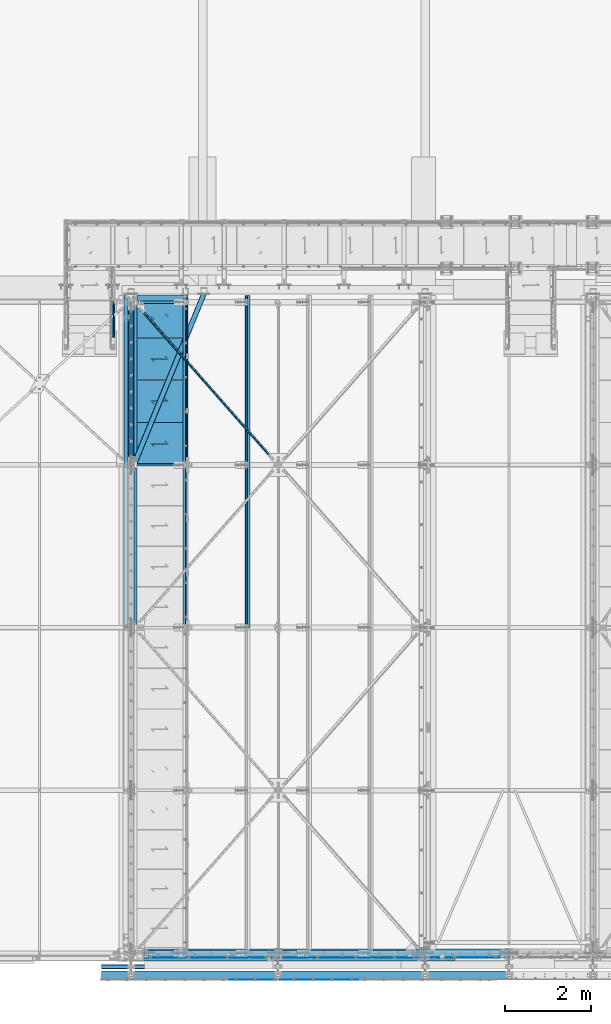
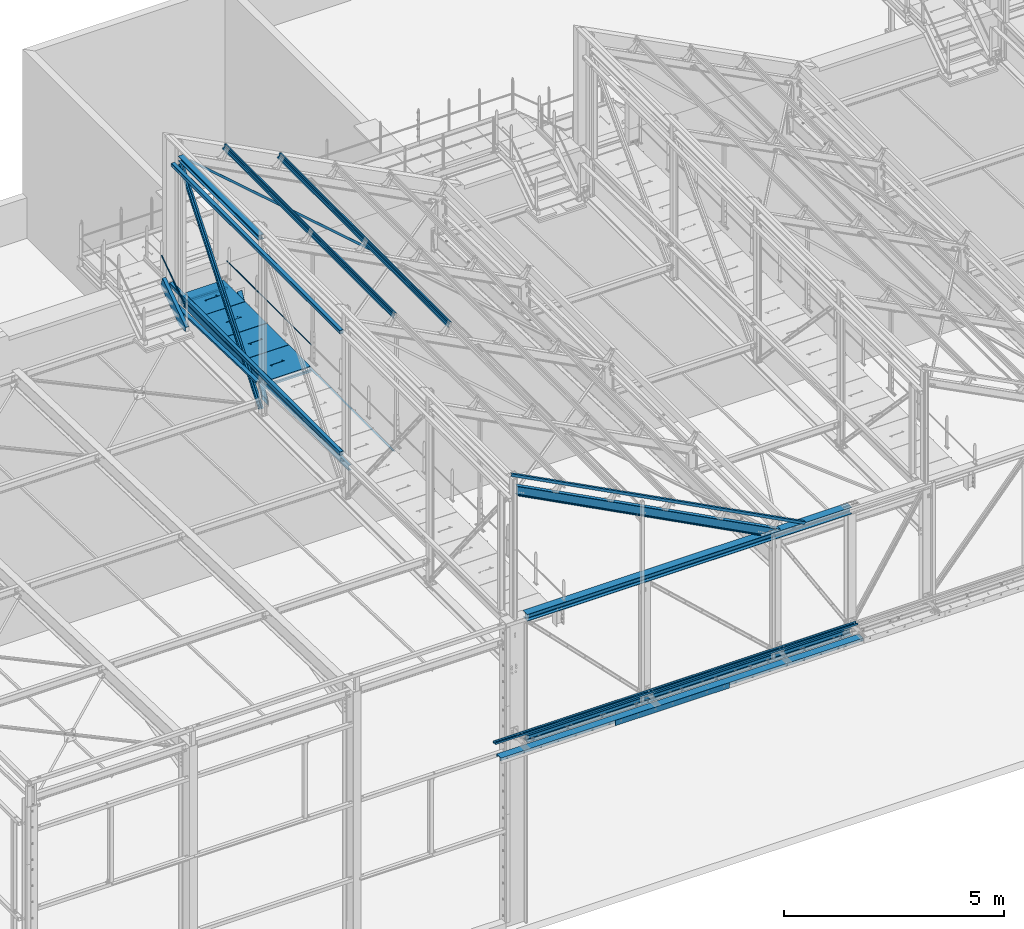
# One storey, part 46 of 362: 24 beams, 6 members, 30 elements without a shape of their own.
"""IFC2X3 building model written with IfcOpenShell, lengths in millimetres."""

from ifc_helpers import new_model, si_unit, frame, origin_with_axes, origin_2d_with_axis, place, context, subcontext, project, spatial, polyline, rectangle, hollow_rectangle, hollow_circle, i_section, l_section, u_section, outline, extrude, boolean, clip, halfspace, material, type_object, element, aggregate, save


model = new_model("IFC2X3")

# Units and contexts
model_context = context("Model", 3, precision=1e-05, world=origin_with_axes())
body_context = subcontext(model_context, "Body", "Model", "MODEL_VIEW")
ifc_project = project(units=[si_unit("LENGTHUNIT", "METRE", prefix="MILLI"), si_unit("AREAUNIT", "SQUARE_METRE"), si_unit("VOLUMEUNIT", "CUBIC_METRE"), si_unit("MASSUNIT", "GRAM", prefix="KILO"), si_unit("TIMEUNIT", "SECOND"), si_unit("PLANEANGLEUNIT", "RADIAN"), si_unit("SOLIDANGLEUNIT", "STERADIAN"), si_unit("THERMODYNAMICTEMPERATUREUNIT", "DEGREE_CELSIUS"), si_unit("LUMINOUSINTENSITYUNIT", "LUMEN")], contexts=[model_context])

# Site, building, storey
site_placement = place(None, origin_with_axes())
site = spatial("IfcSite", under=ifc_project, at=site_placement, Name="Undefined", CompositionType="ELEMENT")
building_placement = place(site_placement, origin_with_axes())
building = spatial("IfcBuilding", under=site, at=building_placement, Name="Undefined", CompositionType="ELEMENT")
storey_placement = place(building_placement, origin_with_axes())
storey = spatial("IfcBuildingStorey", under=building, at=storey_placement, Name="Undefined", CompositionType="ELEMENT", Elevation=0.0)

# Assembly, member
assembly_1_placement = place(storey_placement, origin_with_axes())
assembly_1 = element("IfcElementAssembly", 1, at=assembly_1_placement, inside=storey, Name="MAIN COURANTE", AssemblyPlace="NOTDEFINED", PredefinedType="NOTDEFINED")
ifc_material_1 = material(Name="Undefined/S235-E24")
member_type_1 = type_object("IfcMemberType", Name="TUBE-21.3*2", PredefinedType="NOTDEFINED")
member_1_placement = place(assembly_1_placement, frame((12269.9936634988, 14144.9998536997, 8651.13839395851), z_axis=(0.999999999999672, -6.66011674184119e-07, -4.61008081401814e-07), x_axis=(0.0, 0.822192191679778, 0.56920997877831)))
member_1 = element("IfcMember", 2, at=member_1_placement, type_object=member_type_1, material=ifc_material_1, Name="LISSE", ObjectType="TUBE-21.3*2", context=body_context, shape_type="Clipping", body=[
    clip(clip(extrude(hollow_circle(Radius=10.64999962, WallThickness=2.0, at=origin_2d_with_axis()), frame((1395.35433691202, -1.13686837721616e-12, 7.38694435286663e-20), z_axis=(-1.0, 0.0, 0.0), x_axis=(0.0, -1.0, 0.0)), (0.0, 0.0, 1.0), 1404.17), halfspace(frame((1387.78549896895, 10.5802584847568, -0.00112410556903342), z_axis=(-0.822192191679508, 0.569209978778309, 6.66011673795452e-07), x_axis=(-0.569209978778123, -0.822192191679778, 4.61008086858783e-07)), True)), halfspace(frame((16.4615054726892, 14.9935154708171, -1.33328576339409e-05), z_axis=(0.822192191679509, -0.569209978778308, -6.66011673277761e-07), x_axis=(0.0, 0.0, -1.0)), True)),
])
aggregate(assembly_1, [member_1])

# Assembly, beam
assembly_2_placement = place(storey_placement, origin_with_axes())
assembly_2 = element("IfcElementAssembly", 3, at=assembly_2_placement, inside=storey, Name="SUPPORT", AssemblyPlace="NOTDEFINED", PredefinedType="NOTDEFINED")
beam_type_1 = type_object("IfcBeamType", Name="L50*5", PredefinedType="NOTDEFINED")
beam_1_placement = place(assembly_2_placement, frame((13921.4998855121, 15280.0000894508, 8074.99999999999), z_axis=(-1.0, 0.0, 0.0), x_axis=(0.0, -1.0, 0.0)))
beam_1 = element("IfcBeam", 4, at=beam_1_placement, type_object=beam_type_1, material=ifc_material_1, Name="SUPPORT", ObjectType="L50*5", context=body_context, shape_type="SweptSolid", body=[
    extrude(l_section(Depth=50.0, Width=50.0, Thickness=5.0, FilletRadius=7.0, EdgeRadius=3.5, at=origin_2d_with_axis()), frame((7675.0000889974, 0.0, 0.0), z_axis=(-1.0, 0.0, 0.0), x_axis=(0.0, -1.0, 0.0)), (0.0, 0.0, 1.0), 7675.0),
])
aggregate(assembly_2, [beam_1])

# Assembly, member
assembly_3_placement = place(storey_placement, origin_with_axes())
assembly_3 = element("IfcElementAssembly", 5, at=assembly_3_placement, inside=storey, AssemblyPlace="NOTDEFINED", PredefinedType="NOTDEFINED")
ifc_material_2 = material(Name="Undefined/S275-E28")
member_type_2 = type_object("IfcMemberType", Name="UPN260", PredefinedType="NOTDEFINED")
member_2_placement = place(assembly_3_placement, frame((12254.9957050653, 15220.1081967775, 8803.11488296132), z_axis=(-2.38199999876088e-06, 0.569209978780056, -0.822192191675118), x_axis=(-1.71699999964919e-06, -0.822192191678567, -0.569209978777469)))
member_2 = element("IfcMember", 6, at=member_2_placement, type_object=member_type_2, material=ifc_material_2, Name="LIMON", ObjectType="UPN260", context=body_context, shape_type="Clipping", body=[
    clip(clip(clip(extrude(u_section(Depth=260.0, FlangeWidth=90.0, WebThickness=10.0, FlangeThickness=14.0, FilletRadius=14.0, EdgeRadius=7.0, FlangeSlope=0.0798299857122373, at=origin_2d_with_axis()), frame((1532.05974941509, 3.24426271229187e-19, 1.50656932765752e-12), z_axis=(-1.0, 0.0, 0.0), x_axis=(0.0, -1.0, 0.0)), (0.0, 0.0, 1.0), 1652.65), halfspace(frame((1475.10561376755, -44.9999999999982, -130.0), z_axis=(0.594754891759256, -2.93590080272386e-06, 0.803907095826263), x_axis=(-0.803907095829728, -3.97667463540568e-10, 0.594754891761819)), False)), halfspace(frame((1280.85769771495, 106.407624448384, -129.999853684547), z_axis=(-0.822192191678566, 5.58458236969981e-08, 0.569209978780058), x_axis=(0.569209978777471, -2.93579533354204e-06, 0.822192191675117)), True)), halfspace(frame((81.2187427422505, 545.001446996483, 130.001191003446), z_axis=(0.954513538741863, -9.28664575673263e-07, -0.298167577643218), x_axis=(1.71699999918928e-06, 0.999999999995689, 2.38199999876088e-06)), True)),
])
aggregate(assembly_3, [member_2])

# Assembly, beam
assembly_4_placement = place(storey_placement, origin_with_axes())
assembly_4 = element("IfcElementAssembly", 7, at=assembly_4_placement, inside=storey, AssemblyPlace="NOTDEFINED", PredefinedType="NOTDEFINED")
beam_type_2 = type_object("IfcBeamType", Name="L60*6", PredefinedType="NOTDEFINED")
beam_2_placement = place(assembly_4_placement, frame((12780.6286044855, 15197.8852381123, 12052.4067909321), z_axis=(0.628485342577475, 0.704921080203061, -0.328774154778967), x_axis=(0.624617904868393, -0.709285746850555, -0.326750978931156)))
beam_2 = element("IfcBeam", 8, at=beam_2_placement, type_object=beam_type_2, material=ifc_material_1, Name="STABILITE CVT", ObjectType="L60*6", context=body_context, shape_type="Clipping", body=[
    clip(clip(extrude(l_section(Depth=60.0, Width=60.0, Thickness=6.0, FilletRadius=8.0, EdgeRadius=4.0, at=origin_2d_with_axis()), frame((5268.62284058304, 0.0, -2.92467319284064e-13), z_axis=(-1.0, 0.0, 0.0), x_axis=(0.0, -1.0, 0.0)), (0.0, 0.0, 1.0), 5179.74), halfspace(frame((5188.72404710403, 30.0000006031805, -30.0000000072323), z_axis=(1.0, 0.0, 0.0), x_axis=(0.0, -1.0, 0.0)), False)), halfspace(frame((168.778125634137, 30.0000272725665, 30.0000000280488), z_axis=(-1.0, 0.0, 0.0), x_axis=(0.0, -1.0, 0.0)), False)),
])
aggregate(assembly_4, [beam_2])

assembly_5_placement = place(storey_placement, origin_with_axes())
assembly_5 = element("IfcElementAssembly", 9, at=assembly_5_placement, inside=storey, Name="SUPPORT", AssemblyPlace="NOTDEFINED", PredefinedType="NOTDEFINED")
beam_type_3 = type_object("IfcBeamType", Name="PL150*4", PredefinedType="NOTDEFINED")
beam_3_placement = place(assembly_5_placement, frame((14989.9999940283, -622.0, 5154.99824538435), z_axis=(0.0, 0.0, 1.0), x_axis=(1.0, 0.0, 0.0)))
beam_3 = element("IfcBeam", 10, at=beam_3_placement, type_object=beam_type_3, material=ifc_material_1, Name="SUPPORT", ObjectType="PL150*4", context=body_context, shape_type="SweptSolid", body=[
    extrude(rectangle(XDim=4.0, YDim=150.0, at=origin_2d_with_axis()), frame((2999.99999402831, 0.0, 0.0), z_axis=(-1.0, 0.0, 0.0), x_axis=(0.0, -1.0, 0.0)), (0.0, 0.0, 1.0), 3000.0),
])
aggregate(assembly_5, [beam_3])

assembly_6_placement = place(storey_placement, origin_with_axes())
assembly_6 = element("IfcElementAssembly", 11, at=assembly_6_placement, inside=storey, Name="SUPPORT", AssemblyPlace="NOTDEFINED", PredefinedType="NOTDEFINED")
beam_type_4 = type_object("IfcBeamType", Name="UPF-100*50*4", PredefinedType="NOTDEFINED")
beam_4_placement = place(assembly_6_placement, frame((21504.9999940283, -320.0, 5474.99824538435), z_axis=(0.0, -1.0, 0.0), x_axis=(-1.0, 0.0, 0.0)))
beam_4 = element("IfcBeam", 12, at=beam_4_placement, type_object=beam_type_4, material=ifc_material_1, Name="SUPPORT", ObjectType="UPF-100*50*4", context=body_context, shape_type="SweptSolid", body=[
    extrude(u_section(Depth=100.0, FlangeWidth=50.0, WebThickness=4.0, FlangeThickness=4.0, at=origin_2d_with_axis()), frame((9514.99999402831, 0.0, 0.0), z_axis=(-1.0, 0.0, 0.0), x_axis=(0.0, -1.0, 0.0)), (0.0, 0.0, 1.0), 9515.0),
])
aggregate(assembly_6, [beam_4])

assembly_7_placement = place(storey_placement, origin_with_axes())
assembly_7 = element("IfcElementAssembly", 13, at=assembly_7_placement, inside=storey, Name="LISSE", AssemblyPlace="NOTDEFINED", PredefinedType="NOTDEFINED")
beam_5_placement = place(assembly_7_placement, frame((12563.5000000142, 11402.9585391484, 8171.89575101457), z_axis=(1.0, 0.0, 0.0), x_axis=(0.0, 0.99950644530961, -0.0314144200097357)))
beam_5 = element("IfcBeam", 14, at=beam_5_placement, type_object=beam_type_4, material=ifc_material_1, Name="LISSE CONTREBARDAGE", ObjectType="UPF-100*50*4", context=body_context, shape_type="Clipping", body=[
    clip(extrude(u_section(Depth=100.0, FlangeWidth=50.0, WebThickness=4.0, FlangeThickness=4.0, at=origin_2d_with_axis()), frame((3989.01014791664, 0.0, 0.0), z_axis=(-1.0, 0.0, 0.0), x_axis=(0.0, -1.0, 0.0)), (0.0, 0.0, 1.0), 3989.01), halfspace(frame((3959.78106204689, -24.99999999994, -50.0), z_axis=(0.999506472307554, 0.0314135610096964, 0.0), x_axis=(0.0, 0.0, 1.0)), False)),
])
aggregate(assembly_7, [beam_5])

assembly_8_placement = place(storey_placement, origin_with_axes())
assembly_8 = element("IfcElementAssembly", 15, at=assembly_8_placement, inside=storey, Name="SUPPORT", AssemblyPlace="NOTDEFINED", PredefinedType="NOTDEFINED")
beam_type_5 = type_object("IfcBeamType", Name="UPN200", PredefinedType="NOTDEFINED")
beam_6_placement = place(assembly_8_placement, frame((11990.0, -520.0, 5192.49824538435), z_axis=(0.0, -1.0, 0.0), x_axis=(1.0, 0.0, 0.0)))
beam_6 = element("IfcBeam", 16, at=beam_6_placement, type_object=beam_type_5, material=ifc_material_2, Name="SUPPORT", ObjectType="UPN200", context=body_context, shape_type="SweptSolid", body=[
    extrude(u_section(Depth=200.0, FlangeWidth=75.0, WebThickness=8.5, FlangeThickness=11.5, FilletRadius=11.5, EdgeRadius=6.0, FlangeSlope=0.0798299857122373, at=origin_2d_with_axis()), frame((9514.99999402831, 0.0, 0.0), z_axis=(-1.0, 0.0, 0.0), x_axis=(0.0, -1.0, 0.0)), (0.0, 0.0, 1.0), 9515.0),
])
aggregate(assembly_8, [beam_6])

assembly_9_placement = place(storey_placement, origin_with_axes())
assembly_9 = element("IfcElementAssembly", 17, at=assembly_9_placement, inside=storey, Name="SUPPORT", AssemblyPlace="NOTDEFINED", PredefinedType="NOTDEFINED")
beam_type_6 = type_object("IfcBeamType", Name="PL10*80", PredefinedType="NOTDEFINED")
beam_7_placement = place(assembly_9_placement, frame((13095.0012593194, -105.0, 5040.00085614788), z_axis=(0.0, 0.0, 1.0), x_axis=(1.0, 0.0, 0.0)))
beam_7 = element("IfcBeam", 18, at=beam_7_placement, type_object=beam_type_6, material=ifc_material_1, Name="SUPPORT", ObjectType="PL10*80", context=body_context, shape_type="SweptSolid", body=[
    extrude(rectangle(XDim=10.0, YDim=80.0, at=origin_2d_with_axis()), frame((8194.99874155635, -2.1691981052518e-19, 0.0), z_axis=(-1.0, 0.0, 0.0), x_axis=(0.0, -1.0, 0.0)), (0.0, 0.0, 1.0), 8195.0),
])
aggregate(assembly_9, [beam_7])

assembly_10_placement = place(storey_placement, origin_with_axes())
assembly_10 = element("IfcElementAssembly", 19, at=assembly_10_placement, inside=storey, Name="LISSE", AssemblyPlace="NOTDEFINED", PredefinedType="NOTDEFINED")
beam_type_7 = type_object("IfcBeamType", Name="TUBE-C-100*100*4", PredefinedType="NOTDEFINED")
beam_8_placement = place(assembly_10_placement, frame((12563.5000011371, 7604.99999902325, 11869.999999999), z_axis=(0.0, 0.0, -1.0), x_axis=(0.0, 1.0, 0.0)))
beam_8 = element("IfcBeam", 20, at=beam_8_placement, type_object=beam_type_7, material=ifc_material_1, Name="LISSE ACROTERE", ObjectType="TUBE-C-100*100*4", context=body_context, shape_type="SweptSolid", body=[
    extrude(hollow_rectangle(XDim=100.0, YDim=100.0, WallThickness=4.0, InnerFilletRadius=4.0, OuterFilletRadius=8.0, at=origin_2d_with_axis()), frame((7664.99999999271, 0.0, 0.0), z_axis=(-1.0, 0.0, 0.0), x_axis=(0.0, -1.0, 0.0)), (0.0, 0.0, 1.0), 7665.0),
])
aggregate(assembly_10, [beam_8])

assembly_11_placement = place(storey_placement, origin_with_axes())
assembly_11 = element("IfcElementAssembly", 21, at=assembly_11_placement, inside=storey, Name="LISSE", AssemblyPlace="NOTDEFINED", PredefinedType="NOTDEFINED")
beam_9_placement = place(assembly_11_placement, frame((12563.499999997, 7604.99999999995, 8499.99999999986), z_axis=(0.0, 0.0, 1.0), x_axis=(0.0, 1.0, 0.0)))
beam_9 = element("IfcBeam", 22, at=beam_9_placement, type_object=beam_type_7, material=ifc_material_1, Name="LISSE ACROTERE", ObjectType="TUBE-C-100*100*4", context=body_context, shape_type="SweptSolid", body=[
    extrude(hollow_rectangle(XDim=100.0, YDim=100.0, WallThickness=4.0, InnerFilletRadius=4.0, OuterFilletRadius=8.0, at=origin_2d_with_axis()), frame((7755.0, 0.0, 0.0), z_axis=(-1.0, 0.0, 0.0), x_axis=(0.0, -1.0, 0.0)), (0.0, 0.0, 1.0), 7755.0),
])
aggregate(assembly_11, [beam_9])

assembly_12_placement = place(storey_placement, origin_with_axes())
assembly_12 = element("IfcElementAssembly", 23, at=assembly_12_placement, inside=storey, AssemblyPlace="NOTDEFINED", PredefinedType="NOTDEFINED")
beam_type_8 = type_object("IfcBeamType", Name="TOLE30*980", PredefinedType="NOTDEFINED")
beam_10_placement = place(assembly_12_placement, frame((13936.4998764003, 15354.9999809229, 8115.0), z_axis=(0.0, 0.0, 1.0), x_axis=(-1.0, 0.0, 0.0)))
beam_10 = element("IfcBeam", 24, at=beam_10_placement, type_object=beam_type_8, material=ifc_material_1, Name="CAILLEBOTIS", ObjectType="TOLE30*980", context=body_context, shape_type="CSG", body=[
    boolean("DIFFERENCE", extrude(outline(polyline([(0.0, 0.0), (1179.99169921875, 0.0), (1179.99169921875, 980.0), (-9.39995516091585e-07, 980.0), (0.0, 0.0)])), frame((0.0, 0.0, -15.0), z_axis=(0.0, 0.0, 1.0), x_axis=(1.0, 0.0, 0.0)), (0.0, 0.0, 1.0), 30.0), extrude(outline(polyline([(0.0, 0.0), (9.99999999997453, 6.91215973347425e-11), (10.0000000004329, 75.8578643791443), (282.842712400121, -196.984848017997), (282.842712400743, -96.9848480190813), (272.842712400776, -96.9848480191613), (272.842712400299, -172.842712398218), (0.0, 100.0), (0.0, 0.0)])), frame((724.286946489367, 555.710676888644, -17.5), z_axis=(0.0, 0.0, 1.0), x_axis=(-0.707106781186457, -0.707106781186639, 0.0)), (0.0, 0.0, 1.0), 35.0)),
])
aggregate(assembly_12, [beam_10])

assembly_13_placement = place(storey_placement, origin_with_axes())
assembly_13 = element("IfcElementAssembly", 25, at=assembly_13_placement, inside=storey, AssemblyPlace="NOTDEFINED", PredefinedType="NOTDEFINED")
beam_11_placement = place(assembly_13_placement, frame((13936.4998764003, 14364.9999856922, 8115.0), z_axis=(0.0, 0.0, 1.0), x_axis=(-1.0, 0.0, 0.0)))
beam_11 = element("IfcBeam", 26, at=beam_11_placement, type_object=beam_type_8, material=ifc_material_1, Name="CAILLEBOTIS", ObjectType="TOLE30*980", context=body_context, shape_type="CSG", body=[
    boolean("DIFFERENCE", extrude(outline(polyline([(0.0, 0.0), (1179.99169921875, 0.0), (1179.99169921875, 980.0), (-9.39995516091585e-07, 980.0), (0.0, 0.0)])), frame((0.0, 0.0, -15.0), z_axis=(0.0, 0.0, 1.0), x_axis=(1.0, 0.0, 0.0)), (0.0, 0.0, 1.0), 30.0), extrude(outline(polyline([(0.0, 0.0), (9.99999999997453, 6.91215973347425e-11), (10.0000000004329, 75.8578643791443), (282.842712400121, -196.984848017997), (282.842712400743, -96.9848480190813), (272.842712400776, -96.9848480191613), (272.842712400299, -172.842712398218), (0.0, 100.0), (0.0, 0.0)])), frame((724.286946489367, 555.710676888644, -17.5), z_axis=(0.0, 0.0, 1.0), x_axis=(-0.707106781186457, -0.707106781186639, 0.0)), (0.0, 0.0, 1.0), 35.0)),
])
aggregate(assembly_13, [beam_11])

assembly_14_placement = place(storey_placement, origin_with_axes())
assembly_14 = element("IfcElementAssembly", 27, at=assembly_14_placement, inside=storey, AssemblyPlace="NOTDEFINED", PredefinedType="NOTDEFINED")
beam_12_placement = place(assembly_14_placement, frame((13936.4998764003, 13374.9999904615, 8115.0), z_axis=(0.0, 0.0, 1.0), x_axis=(-1.0, 0.0, 0.0)))
beam_12 = element("IfcBeam", 28, at=beam_12_placement, type_object=beam_type_8, material=ifc_material_1, Name="CAILLEBOTIS", ObjectType="TOLE30*980", context=body_context, shape_type="CSG", body=[
    boolean("DIFFERENCE", extrude(outline(polyline([(0.0, 0.0), (1179.99169921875, 0.0), (1179.99169921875, 980.0), (-9.39995516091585e-07, 980.0), (0.0, 0.0)])), frame((0.0, 0.0, -15.0), z_axis=(0.0, 0.0, 1.0), x_axis=(1.0, 0.0, 0.0)), (0.0, 0.0, 1.0), 30.0), extrude(outline(polyline([(0.0, 0.0), (9.99999999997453, 6.91215973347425e-11), (10.0000000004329, 75.8578643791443), (282.842712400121, -196.984848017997), (282.842712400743, -96.9848480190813), (272.842712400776, -96.9848480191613), (272.842712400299, -172.842712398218), (0.0, 100.0), (0.0, 0.0)])), frame((724.286946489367, 555.710676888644, -17.5), z_axis=(0.0, 0.0, 1.0), x_axis=(-0.707106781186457, -0.707106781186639, 0.0)), (0.0, 0.0, 1.0), 35.0)),
])
aggregate(assembly_14, [beam_12])

assembly_15_placement = place(storey_placement, origin_with_axes())
assembly_15 = element("IfcElementAssembly", 29, at=assembly_15_placement, inside=storey, AssemblyPlace="NOTDEFINED", PredefinedType="NOTDEFINED")
beam_13_placement = place(assembly_15_placement, frame((13936.4998764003, 12384.9999952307, 8115.0), z_axis=(0.0, 0.0, 1.0), x_axis=(-1.0, 0.0, 0.0)))
beam_13 = element("IfcBeam", 30, at=beam_13_placement, type_object=beam_type_8, material=ifc_material_1, Name="CAILLEBOTIS", ObjectType="TOLE30*980", context=body_context, shape_type="CSG", body=[
    boolean("DIFFERENCE", extrude(outline(polyline([(0.0, 0.0), (1179.99169921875, 0.0), (1179.99169921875, 980.0), (-9.39995516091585e-07, 980.0), (0.0, 0.0)])), frame((0.0, 0.0, -15.0), z_axis=(0.0, 0.0, 1.0), x_axis=(1.0, 0.0, 0.0)), (0.0, 0.0, 1.0), 30.0), extrude(outline(polyline([(0.0, 0.0), (9.99999999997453, 6.91215973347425e-11), (10.0000000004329, 75.8578643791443), (282.842712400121, -196.984848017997), (282.842712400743, -96.9848480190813), (272.842712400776, -96.9848480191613), (272.842712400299, -172.842712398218), (0.0, 100.0), (0.0, 0.0)])), frame((724.286946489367, 555.710676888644, -17.5), z_axis=(0.0, 0.0, 1.0), x_axis=(-0.707106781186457, -0.707106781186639, 0.0)), (0.0, 0.0, 1.0), 35.0)),
])
aggregate(assembly_15, [beam_13])

assembly_16_placement = place(storey_placement, origin_with_axes())
assembly_16 = element("IfcElementAssembly", 31, at=assembly_16_placement, inside=storey, Name="SUPPORT", AssemblyPlace="NOTDEFINED", PredefinedType="NOTDEFINED")
beam_type_9 = type_object("IfcBeamType", Name="L70*7", PredefinedType="NOTDEFINED")
beam_14_placement = place(assembly_16_placement, frame((13095.0012649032, -64.9984779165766, 5045.00085614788), z_axis=(0.0, 1.0, 0.0), x_axis=(1.0, 0.0, 0.0)))
beam_14 = element("IfcBeam", 32, at=beam_14_placement, type_object=beam_type_9, material=ifc_material_1, Name="SUPPORT", ObjectType="L70*7", context=body_context, shape_type="SweptSolid", body=[
    extrude(l_section(Depth=70.0, Width=70.0, Thickness=7.0, FilletRadius=9.0, EdgeRadius=4.5, at=origin_2d_with_axis()), frame((8194.99874155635, -2.1691981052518e-19, 0.0), z_axis=(-1.0, 0.0, 0.0), x_axis=(0.0, -1.0, 0.0)), (0.0, 0.0, 1.0), 8195.0),
])
aggregate(assembly_16, [beam_14])

assembly_17_placement = place(storey_placement, origin_with_axes())
assembly_17 = element("IfcElementAssembly", 33, at=assembly_17_placement, inside=storey, Name="MAIN COURANTE", AssemblyPlace="NOTDEFINED", PredefinedType="NOTDEFINED")
beam_type_10 = type_object("IfcBeamType", Name="TUBE-26.9*2", PredefinedType="NOTDEFINED")
beam_15_placement = place(assembly_17_placement, frame((13993.9998937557, 15300.0034477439, 8673.79999660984), z_axis=(0.0, 0.0, 1.0), x_axis=(0.0, -1.0, 0.0)))
beam_15 = element("IfcBeam", 34, at=beam_15_placement, type_object=beam_type_10, material=ifc_material_1, Name="LISSE", ObjectType="TUBE-26.9*2", context=body_context, shape_type="SweptSolid", body=[
    extrude(hollow_circle(Radius=13.44999981, WallThickness=2.0, at=origin_2d_with_axis()), frame((3845.0034383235, -7.91283071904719e-22, 7.95128074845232e-22), z_axis=(-1.0, 0.0, 0.0), x_axis=(0.0, -1.0, 0.0)), (0.0, 0.0, 1.0), 3845.0),
])
aggregate(assembly_17, [beam_15])

assembly_18_placement = place(storey_placement, origin_with_axes())
assembly_18 = element("IfcElementAssembly", 35, at=assembly_18_placement, inside=storey, AssemblyPlace="NOTDEFINED", PredefinedType="NOTDEFINED")
beam_type_11 = type_object("IfcBeamType", Name="HEA140", PredefinedType="NOTDEFINED")
beam_16_placement = place(assembly_18_placement, frame((12683.5, 15125.0, 12103.5), z_axis=(0.0, 0.0, 1.0), x_axis=(0.0, -1.0, 0.0)))
beam_16 = element("IfcBeam", 36, at=beam_16_placement, type_object=beam_type_11, material=ifc_material_2, Name="LONGERON", ObjectType="HEA140", context=body_context, shape_type="SweptSolid", body=[
    extrude(i_section(OverallWidth=140.0, OverallDepth=133.0, WebThickness=5.5, FlangeThickness=8.5, FilletRadius=12.0, at=origin_2d_with_axis()), frame((3650.0, 0.0, 0.0), z_axis=(-1.0, 0.0, 0.0), x_axis=(0.0, -1.0, 0.0)), (0.0, 0.0, 1.0), 3650.0),
])
aggregate(assembly_18, [beam_16])

assembly_19_placement = place(storey_placement, origin_with_axes())
assembly_19 = element("IfcElementAssembly", 37, at=assembly_19_placement, inside=storey, Name="TRAVERSE HAUTE", AssemblyPlace="NOTDEFINED", PredefinedType="NOTDEFINED")
beam_type_12 = type_object("IfcBeamType", Name="HEA200", PredefinedType="NOTDEFINED")
beam_17_placement = place(assembly_19_placement, frame((21504.9998412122, 0.0, 8454.99483451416), z_axis=(0.0, 0.0, -1.0), x_axis=(-1.0, 0.0, 0.0)))
beam_17 = element("IfcBeam", 38, at=beam_17_placement, type_object=beam_type_12, material=ifc_material_2, Name="TRAVERSE HAUTE", ObjectType="HEA200", context=body_context, shape_type="SweptSolid", body=[
    extrude(i_section(OverallWidth=200.0, OverallDepth=190.0, WebThickness=6.5, FlangeThickness=10.0, FilletRadius=18.0, at=origin_2d_with_axis()), frame((8514.99984646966, 0.0, -5.63475423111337e-20), z_axis=(-1.0, 0.0, 0.0), x_axis=(0.0, -1.0, 0.0)), (0.0, 0.0, 1.0), 8515.0),
])
aggregate(assembly_19, [beam_17])

assembly_20_placement = place(storey_placement, origin_with_axes())
assembly_20 = element("IfcElementAssembly", 39, at=assembly_20_placement, inside=storey, Name="TRAVERSE BASSE", AssemblyPlace="NOTDEFINED", PredefinedType="NOTDEFINED")
beam_18_placement = place(assembly_20_placement, frame((12990.0000051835, 0.0, 5095.00085614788), z_axis=(0.0, 0.0, 1.0), x_axis=(1.0, 0.0, 0.0)))
beam_18 = element("IfcBeam", 40, at=beam_18_placement, type_object=beam_type_12, material=ifc_material_2, Name="TRAVERSE BASSE", ObjectType="HEA200", context=body_context, shape_type="SweptSolid", body=[
    extrude(i_section(OverallWidth=200.0, OverallDepth=190.0, WebThickness=6.5, FlangeThickness=10.0, FilletRadius=18.0, at=origin_2d_with_axis()), frame((8514.99984646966, 0.0, -5.63475423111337e-20), z_axis=(-1.0, 0.0, 0.0), x_axis=(0.0, -1.0, 0.0)), (0.0, 0.0, 1.0), 8515.0),
])
aggregate(assembly_20, [beam_18])

assembly_21_placement = place(storey_placement, origin_with_axes())
assembly_21 = element("IfcElementAssembly", 41, at=assembly_21_placement, inside=storey, AssemblyPlace="NOTDEFINED", PredefinedType="NOTDEFINED")
beam_type_13 = type_object("IfcBeamType", Name="UPF-150*70*5", PredefinedType="NOTDEFINED")
beam_19_placement = place(assembly_21_placement, frame((12781.5082291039, 7605.00000152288, 8025.0), z_axis=(0.0, 0.0, 1.0), x_axis=(0.0, 1.0, 0.0)))
beam_19 = element("IfcBeam", 42, at=beam_19_placement, type_object=beam_type_13, material=ifc_material_1, Name="LONGERON", ObjectType="UPF-150*70*5", context=body_context, shape_type="SweptSolid", body=[
    extrude(u_section(Depth=150.0, FlangeWidth=70.0, WebThickness=5.0, FlangeThickness=5.0, at=origin_2d_with_axis()), frame((7755.0, 0.0, 0.0), z_axis=(-1.0, 0.0, 0.0), x_axis=(0.0, -1.0, 0.0)), (0.0, 0.0, 1.0), 7755.0),
])
aggregate(assembly_21, [beam_19])

assembly_22_placement = place(storey_placement, origin_with_axes())
assembly_22 = element("IfcElementAssembly", 43, at=assembly_22_placement, inside=storey, Name="PANNE SHED", AssemblyPlace="NOTDEFINED", PredefinedType="NOTDEFINED")
beam_type_14 = type_object("IfcBeamType", Name="B140/150", PredefinedType="NOTDEFINED")
beam_20_placement = place(assembly_22_placement, frame((13958.9855132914, 7605.00007961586, 11830.9803799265), z_axis=(0.463528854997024, 6.99999093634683e-09, 0.886081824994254), x_axis=(0.0, 1.0, 0.0)))
beam_20 = element("IfcBeam", 44, at=beam_20_placement, type_object=beam_type_14, material=ifc_material_1, Name="PANNE SHED", ObjectType="B140/150", context=body_context, shape_type="SweptSolid", body=[
    extrude(outline(polyline([(-27.9999999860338, 36.0000000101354), (-27.999999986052, 70.0000000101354), (28.0000000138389, 70.0000000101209), (28.0000000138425, 58.0000000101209), (26.5000000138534, 58.0000000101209), (26.5000000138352, 68.5000000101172), (-26.4999999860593, 68.5000000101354), (-26.4999999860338, 36.7000007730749), (-1.49999998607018, 15.6999998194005), (-1.49999998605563, -15.6999997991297), (-26.4999999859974, -36.7000007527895), (-26.4999999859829, -68.49999998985), (26.5000000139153, -68.4999999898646), (26.500000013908, -57.9999999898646), (28.0000000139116, -57.9999999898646), (28.0000000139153, -69.9999999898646), (-27.9999999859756, -69.99999998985), (-27.9999999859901, -35.99999998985), (-2.99999998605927, -14.9999999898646), (-2.9999999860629, 15.0000000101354), (-27.9999999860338, 36.0000000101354)])), frame((7750.00000000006, -3.63797880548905e-12, 0.0), z_axis=(-1.0, 0.0, 0.0), x_axis=(0.0, -1.0, 0.0)), (0.0, 0.0, 1.0), 7750.0),
])
aggregate(assembly_22, [beam_20])

assembly_23_placement = place(storey_placement, origin_with_axes())
assembly_23 = element("IfcElementAssembly", 45, at=assembly_23_placement, inside=storey, Name="PANNE SHED", AssemblyPlace="NOTDEFINED", PredefinedType="NOTDEFINED")
beam_21_placement = place(assembly_23_placement, frame((15396.285514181, 7605.00007961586, 11079.0980100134), z_axis=(0.463528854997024, 6.99999093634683e-09, 0.886081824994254), x_axis=(0.0, 1.0, 0.0)))
beam_21 = element("IfcBeam", 46, at=beam_21_placement, type_object=beam_type_14, material=ifc_material_1, Name="PANNE SHED", ObjectType="B140/150", context=body_context, shape_type="SweptSolid", body=[
    extrude(outline(polyline([(-27.9999999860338, 36.0000000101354), (-27.999999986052, 70.0000000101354), (28.0000000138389, 70.0000000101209), (28.0000000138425, 58.0000000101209), (26.5000000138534, 58.0000000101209), (26.5000000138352, 68.5000000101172), (-26.4999999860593, 68.5000000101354), (-26.4999999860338, 36.7000007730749), (-1.49999998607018, 15.6999998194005), (-1.49999998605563, -15.6999997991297), (-26.4999999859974, -36.7000007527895), (-26.4999999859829, -68.49999998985), (26.5000000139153, -68.4999999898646), (26.500000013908, -57.9999999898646), (28.0000000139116, -57.9999999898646), (28.0000000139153, -69.9999999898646), (-27.9999999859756, -69.99999998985), (-27.9999999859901, -35.99999998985), (-2.99999998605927, -14.9999999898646), (-2.9999999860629, 15.0000000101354), (-27.9999999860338, 36.0000000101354)])), frame((7750.00000000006, -3.63797880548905e-12, 0.0), z_axis=(-1.0, 0.0, 0.0), x_axis=(0.0, -1.0, 0.0)), (0.0, 0.0, 1.0), 7750.0),
])
aggregate(assembly_23, [beam_21])

# Assembly, member
assembly_24_placement = place(storey_placement, origin_with_axes())
assembly_24 = element("IfcElementAssembly", 47, at=assembly_24_placement, inside=storey, AssemblyPlace="NOTDEFINED", PredefinedType="NOTDEFINED")
member_type_3 = type_object("IfcMemberType", Name="L70*7", PredefinedType="NOTDEFINED")
member_3_placement = place(assembly_24_placement, frame((12520.1676065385, -145.0, 12631.0564639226), z_axis=(-0.463528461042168, 0.0, -0.886082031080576), x_axis=(0.886081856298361, 3.500000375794e-08, -0.463528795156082)))
member_3 = element("IfcMember", 48, at=member_3_placement, type_object=member_type_3, material=ifc_material_1, Name="FEUILLURE", ObjectType="L70*7", context=body_context, shape_type="SweptSolid", body=[
    extrude(l_section(Depth=70.0, Width=70.0, Thickness=7.0, FilletRadius=9.0, EdgeRadius=4.5, at=origin_2d_with_axis()), frame((8699.9969717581, 0.0, 0.0), z_axis=(-1.0, 0.0, 0.0), x_axis=(0.0, -1.0, 0.0)), (0.0, 0.0, 1.0), 8700.0),
])
aggregate(assembly_24, [member_3])

assembly_25_placement = place(storey_placement, origin_with_axes())
assembly_25 = element("IfcElementAssembly", 49, at=assembly_25_placement, inside=storey, AssemblyPlace="NOTDEFINED", PredefinedType="NOTDEFINED")
member_type_4 = type_object("IfcMemberType", Name="UPN80", PredefinedType="NOTDEFINED")
member_4_placement = place(assembly_25_placement, frame((12707.5000000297, 11400.0000000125, 7249.99999999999), z_axis=(0.0, -0.783225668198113, 0.621737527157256), x_axis=(0.0, 0.621737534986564, 0.783225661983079)))
member_4 = element("IfcMember", 50, at=member_4_placement, type_object=member_type_4, material=ifc_material_2, Name="DIAGONALE", ObjectType="UPN80", context=body_context, shape_type="Clipping", body=[
    clip(clip(extrude(u_section(Depth=80.0, FlangeWidth=45.0, WebThickness=6.0, FlangeThickness=8.0, FilletRadius=8.0, EdgeRadius=4.0, FlangeSlope=0.0798299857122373, at=origin_2d_with_axis()), frame((6070.59674052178, 0.0, 0.0), z_axis=(-1.0, 0.0, 0.0), x_axis=(0.0, -1.0, 0.0)), (0.0, 0.0, 1.0), 6029.29), halfspace(frame((5991.90387685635, 27.5000000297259, -40.0000004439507), z_axis=(-1.0, 0.0, 0.0), x_axis=(0.0, 1.0, 0.0)), True)), halfspace(frame((119.999999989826, 27.5000000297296, 39.9999985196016), z_axis=(1.0, 0.0, 0.0), x_axis=(0.0, 1.0, 0.0)), True)),
])
aggregate(assembly_25, [member_4])

assembly_26_placement = place(storey_placement, origin_with_axes())
assembly_26 = element("IfcElementAssembly", 51, at=assembly_26_placement, inside=storey, AssemblyPlace="NOTDEFINED", PredefinedType="NOTDEFINED")
member_5_placement = place(assembly_26_placement, frame((12652.5000000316, 15200.0000000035, 12037.0), z_axis=(0.0, -0.783225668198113, 0.621737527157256), x_axis=(0.0, -0.621737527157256, -0.783225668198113)))
member_5 = element("IfcMember", 52, at=member_5_placement, type_object=member_type_4, material=ifc_material_2, Name="DIAGONALE", ObjectType="UPN80", context=body_context, shape_type="Clipping", body=[
    clip(clip(extrude(u_section(Depth=80.0, FlangeWidth=45.0, WebThickness=6.0, FlangeThickness=8.0, FilletRadius=8.0, EdgeRadius=4.0, FlangeSlope=0.0798299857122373, at=origin_2d_with_axis()), frame((6070.59674052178, 0.0, 0.0), z_axis=(-1.0, 0.0, 0.0), x_axis=(0.0, -1.0, 0.0)), (0.0, 0.0, 1.0), 6029.29), halfspace(frame((5991.90387686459, 27.4999999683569, 39.9999999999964), z_axis=(-1.0, 0.0, 0.0), x_axis=(0.0, -1.0, 0.0)), True)), halfspace(frame((119.999999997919, 27.49999999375, -39.9999989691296), z_axis=(1.0, 0.0, 0.0), x_axis=(0.0, -1.0, 0.0)), True)),
])
aggregate(assembly_26, [member_5])

# Assembly, beam
assembly_27_placement = place(storey_placement, origin_with_axes())
assembly_27 = element("IfcElementAssembly", 53, at=assembly_27_placement, inside=storey, AssemblyPlace="NOTDEFINED", PredefinedType="NOTDEFINED")
beam_type_15 = type_object("IfcBeamType", Name="TUBE-C-60*60*3", PredefinedType="NOTDEFINED")
beam_22_placement = place(assembly_27_placement, frame((12758.0001144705, 15200.0, 8015.0), z_axis=(0.0, -1.0, 0.0), x_axis=(1.0, 0.0, 0.0)))
beam_22 = element("IfcBeam", 54, at=beam_22_placement, type_object=beam_type_15, material=ifc_material_1, Name="SOLIVE", ObjectType="TUBE-C-60*60*3", context=body_context, shape_type="SweptSolid", body=[
    extrude(hollow_rectangle(XDim=60.0, YDim=60.0, WallThickness=3.0, InnerFilletRadius=3.0, OuterFilletRadius=6.0, at=origin_2d_with_axis()), frame((1181.99977105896, 0.0, 0.0), z_axis=(-1.0, 0.0, 0.0), x_axis=(0.0, -1.0, 0.0)), (0.0, 0.0, 1.0), 1182.0),
])
aggregate(assembly_27, [beam_22])

assembly_28_placement = place(storey_placement, origin_with_axes())
assembly_28 = element("IfcElementAssembly", 55, at=assembly_28_placement, inside=storey, AssemblyPlace="NOTDEFINED", PredefinedType="NOTDEFINED")
beam_23_placement = place(assembly_28_placement, frame((12758.0001144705, 11400.0, 8015.0), z_axis=(0.0, -1.0, 0.0), x_axis=(1.0, 0.0, 0.0)))
beam_23 = element("IfcBeam", 56, at=beam_23_placement, type_object=beam_type_15, material=ifc_material_1, Name="SOLIVE", ObjectType="TUBE-C-60*60*3", context=body_context, shape_type="SweptSolid", body=[
    extrude(hollow_rectangle(XDim=60.0, YDim=60.0, WallThickness=3.0, InnerFilletRadius=3.0, OuterFilletRadius=6.0, at=origin_2d_with_axis()), frame((1181.99977105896, 0.0, 0.0), z_axis=(-1.0, 0.0, 0.0), x_axis=(0.0, -1.0, 0.0)), (0.0, 0.0, 1.0), 1182.0),
])
aggregate(assembly_28, [beam_23])

assembly_29_placement = place(storey_placement, origin_with_axes())
assembly_29 = element("IfcElementAssembly", 57, at=assembly_29_placement, inside=storey, AssemblyPlace="NOTDEFINED", PredefinedType="NOTDEFINED")
beam_type_16 = type_object("IfcBeamType", Name="TUBE-C-120*120*4", PredefinedType="NOTDEFINED")
beam_24_placement = place(assembly_29_placement, frame((12746.5081706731, 11400.0000000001, 7591.69334987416), z_axis=(-3.70080089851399e-07, -9.04195629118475e-07, 0.999999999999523), x_axis=(0.378875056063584, 0.925447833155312, 9.77000000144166e-07)))
beam_24 = element("IfcBeam", 58, at=beam_24_placement, type_object=beam_type_16, material=ifc_material_1, Name="BUTON", ObjectType="TUBE-C-120*120*4", context=body_context, shape_type="Clipping", body=[
    clip(clip(extrude(hollow_rectangle(XDim=120.0, YDim=120.0, WallThickness=4.0, InnerFilletRadius=4.0, OuterFilletRadius=8.0, at=origin_2d_with_axis()), frame((4484.25799022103, -2.18306690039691e-12, -9.49578565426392e-19), z_axis=(-1.0, 0.0, 0.0), x_axis=(0.0, -1.0, 0.0)), (0.0, 0.0, 1.0), 4630.7), halfspace(frame((4286.90779017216, 59.8878606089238, 2.27918653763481e-05), z_axis=(-0.925447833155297, -0.378875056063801, 9.04195628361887e-07), x_axis=(0.0, 0.0, 1.0)), True)), halfspace(frame((-6.61823618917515, -13.5151247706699, 6.47264732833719e-06), z_axis=(0.378875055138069, -0.925447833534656, -3.70080089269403e-07), x_axis=(0.0, 0.0, 1.0)), True)),
])
aggregate(assembly_29, [beam_24])

# Assembly, member
assembly_30_placement = place(storey_placement, origin_with_axes())
assembly_30 = element("IfcElementAssembly", 59, at=assembly_30_placement, inside=storey, Name="TRAVERSE SHED", AssemblyPlace="NOTDEFINED", PredefinedType="NOTDEFINED")
member_type_5 = type_object("IfcMemberType", Name="IPE240", PredefinedType="NOTDEFINED")
member_6_placement = place(assembly_30_placement, frame((12694.3765846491, -3.18157252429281e-09, 12063.6701562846), z_axis=(0.463528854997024, 6.99999093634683e-09, 0.886081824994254), x_axis=(0.886081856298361, 3.500000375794e-08, -0.463528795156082)))
member_6 = element("IfcMember", 60, at=member_6_placement, type_object=member_type_5, material=ifc_material_2, Name="TRAVERSE SHED", ObjectType="IPE240", context=body_context, shape_type="Clipping", body=[
    clip(clip(extrude(i_section(OverallWidth=120.0, OverallDepth=240.0, WebThickness=6.199999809, FlangeThickness=9.800000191, FilletRadius=15.0, at=origin_2d_with_axis()), frame((7853.78327453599, 4.13590306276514e-25, 0.0), z_axis=(-1.0, 0.0, 0.0), x_axis=(0.0, -1.0, 0.0)), (0.0, 0.0, 1.0), 8078.76), halfspace(frame((7460.03190935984, 3.18157252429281e-09, -51.6126548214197), z_axis=(-0.463528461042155, -7.08866187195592e-09, 0.886082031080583), x_axis=(0.0, -1.0, 0.0)), True)), halfspace(frame((5.75953323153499, 3.18157252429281e-09, 123.012934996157), z_axis=(-0.886082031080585, 0.0, -0.463528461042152), x_axis=(0.0, -1.0, 0.0)), False)),
])
aggregate(assembly_30, [member_6])

save(model, "model.ifc")
